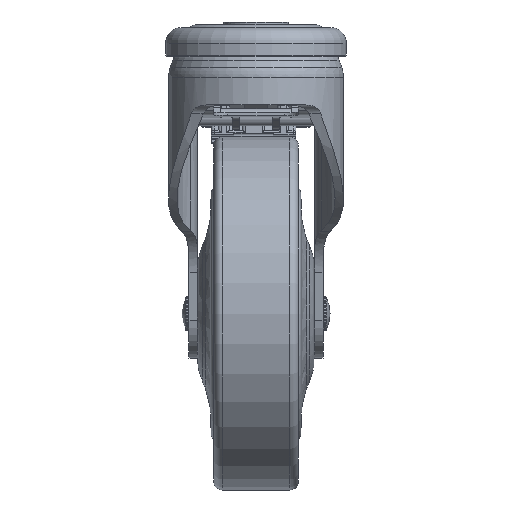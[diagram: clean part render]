
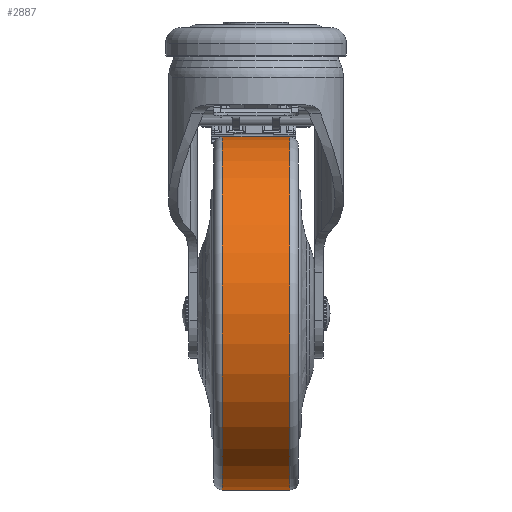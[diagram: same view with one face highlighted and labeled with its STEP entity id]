
A CAD part, left-side view. The second image highlights one B-rep face of the part: STEP entity #2887.
In plain terms, the highlighted cylindrical face has radius 62.499 mm (diameter 124.998 mm), a full revolution.
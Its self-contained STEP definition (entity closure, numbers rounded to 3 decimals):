
#2845=CARTESIAN_POINT('',(141.051,301.064,-157.599));
#2846=VERTEX_POINT('',#2845);
#2847=CARTESIAN_POINT('',(141.051,301.064,-95.1));
#2848=DIRECTION('',(0.0,-1.0,0.0));
#2849=DIRECTION('',(0.0,0.0,1.0));
#2850=AXIS2_PLACEMENT_3D('',#2847,#2848,#2849);
#2851=CIRCLE('',#2850,62.499);
#2852=EDGE_CURVE('',#2846,#2846,#2851,.T.);
#2868=CARTESIAN_POINT('',(141.051,313.064,-95.1));
#2869=DIRECTION('',(0.0,-1.0,0.0));
#2870=DIRECTION('',(0.0,0.0,1.0));
#2871=AXIS2_PLACEMENT_3D('',#2868,#2869,#2870);
#2872=CYLINDRICAL_SURFACE('',#2871,62.499);
#2873=CARTESIAN_POINT('',(141.051,325.064,-157.599));
#2874=VERTEX_POINT('',#2873);
#2875=CARTESIAN_POINT('',(141.051,325.064,-95.1));
#2876=DIRECTION('',(0.0,-1.0,0.0));
#2877=DIRECTION('',(0.0,0.0,1.0));
#2878=AXIS2_PLACEMENT_3D('',#2875,#2876,#2877);
#2879=CIRCLE('',#2878,62.499);
#2880=EDGE_CURVE('',#2874,#2874,#2879,.T.);
#2881=ORIENTED_EDGE('',*,*,#2880,.T.);
#2882=EDGE_LOOP('',(#2881));
#2883=FACE_OUTER_BOUND('',#2882,.T.);
#2884=ORIENTED_EDGE('',*,*,#2852,.F.);
#2885=EDGE_LOOP('',(#2884));
#2886=FACE_BOUND('',#2885,.T.);
#2887=ADVANCED_FACE('',(#2883,#2886),#2872,.T.);
